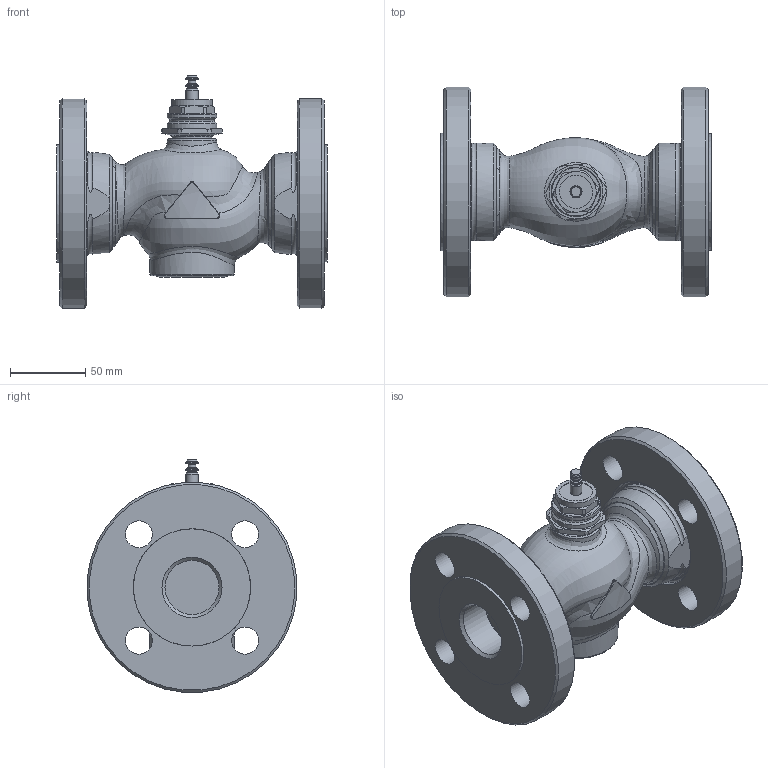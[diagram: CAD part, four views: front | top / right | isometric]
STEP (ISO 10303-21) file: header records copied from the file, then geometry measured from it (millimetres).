
FILE_DESCRIPTION(/* description */ (''),/* implementation_level */ '2;1');
FILE_NAME(/* name */ 'rv111s_dn32_2_F.stp',/* time_stamp */ '2012-02-28T08:42:00+01:00',/* author */ ('KLIMES'),/* organization */ ('LDM'),/* preprocessor_version */ 'ST-DEVELOPER v11',/* originating_system */ 'SIEMENS PLM Software NX 7.0',/* authorisation */ '');
FILE_SCHEMA (('CONFIG_CONTROL_DESIGN'));
Length unit declared in the file: millimetre
Products named in the file (1): klimEAFB3cez
Bounding box: 180 x 139.47 x 154.68 mm (x, y, z)
Volume: 986636.4 mm3; surface area: 136507.9 mm2
Topology: 3 solids, 3 shells, 194 faces, 445 edges, 279 vertices
Faces by surface type: cylinder 57, plane 51, cone 48, bspline 20, torus 18
Full cylindrical faces by diameter (mm): 5.3 x1, 5.5 x1, 8 x3, 18 x8, 22 x1, 26.5 x1, 27 x1, 33 x3, 36 x2, 49 x1, 56 x1, 56.656 x2, 59.614 x2, 60 x2, 78 x2, 140 x2
Entity records: 10713 total; most frequent: CARTESIAN_POINT 6859, DIRECTION 760, ORIENTED_EDGE 672, AXIS2_PLACEMENT_3D 352, EDGE_CURVE 336, EDGE_LOOP 314, VERTEX_POINT 248, FACE_BOUND 222
